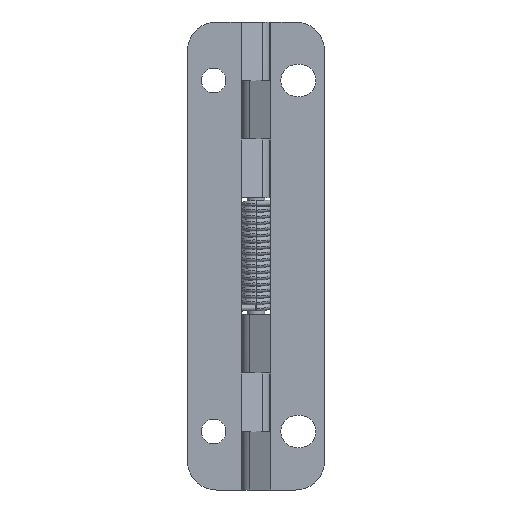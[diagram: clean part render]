
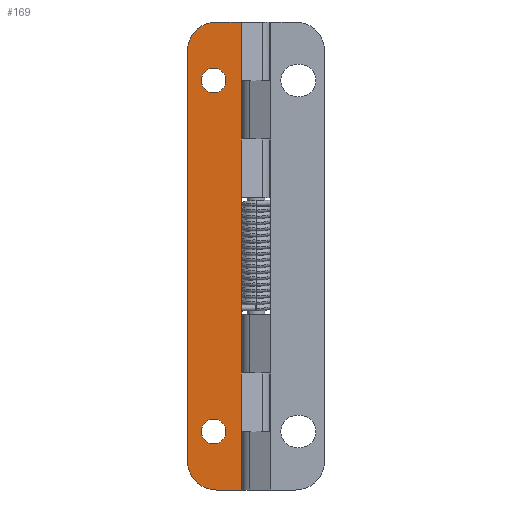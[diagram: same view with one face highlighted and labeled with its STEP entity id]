
A CAD part, front view. The second image highlights one B-rep face of the part: STEP entity #169.
In plain terms, the highlighted planar face has unit normal (0, -1, 0).
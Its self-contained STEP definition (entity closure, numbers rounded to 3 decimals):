
#169=ADVANCED_FACE('',(#393,#394,#395),#396,.F.);
#393=FACE_BOUND('',#751,.T.);
#394=FACE_BOUND('',#752,.T.);
#395=FACE_OUTER_BOUND('',#753,.T.);
#396=PLANE('',#754);
#751=EDGE_LOOP('',(#1415,#1416));
#752=EDGE_LOOP('',(#1417,#1418));
#753=EDGE_LOOP('',(#1419,#1420,#1421,#1422,#1423,#1424,#1425,#1426,#1427,#1428,#1429));
#754=AXIS2_PLACEMENT_3D('',#1430,#1431,#1432);
#1415=ORIENTED_EDGE('',*,*,#2714,.T.);
#1416=ORIENTED_EDGE('',*,*,#2673,.T.);
#1417=ORIENTED_EDGE('',*,*,#2716,.T.);
#1418=ORIENTED_EDGE('',*,*,#2669,.T.);
#1419=ORIENTED_EDGE('',*,*,#2760,.T.);
#1420=ORIENTED_EDGE('',*,*,#2771,.T.);
#1421=ORIENTED_EDGE('',*,*,#2755,.T.);
#1422=ORIENTED_EDGE('',*,*,#2740,.T.);
#1423=ORIENTED_EDGE('',*,*,#2726,.T.);
#1424=ORIENTED_EDGE('',*,*,#2738,.T.);
#1425=ORIENTED_EDGE('',*,*,#2747,.T.);
#1426=ORIENTED_EDGE('',*,*,#2754,.T.);
#1427=ORIENTED_EDGE('',*,*,#2772,.T.);
#1428=ORIENTED_EDGE('',*,*,#2769,.T.);
#1429=ORIENTED_EDGE('',*,*,#2767,.T.);
#1430=CARTESIAN_POINT('',(-7.125,-4.0,-40.0));
#1431=DIRECTION('',(0.0,1.0,0.));
#1432=DIRECTION('',(-1.0,0.,0.));
#2669=EDGE_CURVE('',#3274,#3278,#3280,.T.);
#2673=EDGE_CURVE('',#3282,#3286,#3288,.T.);
#2714=EDGE_CURVE('',#3286,#3282,#3353,.T.);
#2716=EDGE_CURVE('',#3278,#3274,#3355,.T.);
#2726=EDGE_CURVE('',#3320,#3361,#3368,.T.);
#2738=EDGE_CURVE('',#3361,#3298,#3383,.T.);
#2740=EDGE_CURVE('',#3325,#3320,#3385,.T.);
#2747=EDGE_CURVE('',#3298,#3389,#3395,.T.);
#2754=EDGE_CURVE('',#3389,#3402,#3404,.T.);
#2755=EDGE_CURVE('',#3405,#3325,#3406,.T.);
#2760=EDGE_CURVE('',#3415,#3413,#3416,.T.);
#2767=EDGE_CURVE('',#3427,#3415,#3428,.T.);
#2769=EDGE_CURVE('',#3430,#3427,#3431,.T.);
#2771=EDGE_CURVE('',#3413,#3405,#3433,.T.);
#2772=EDGE_CURVE('',#3402,#3430,#3434,.T.);
#3274=VERTEX_POINT('',#4161);
#3278=VERTEX_POINT('',#4166);
#3280=CIRCLE('',#4169,2.1);
#3282=VERTEX_POINT('',#4171);
#3286=VERTEX_POINT('',#4176);
#3288=CIRCLE('',#4179,2.1);
#3298=VERTEX_POINT('',#4194);
#3320=VERTEX_POINT('',#4230);
#3325=VERTEX_POINT('',#4238);
#3353=CIRCLE('',#4284,2.1);
#3355=CIRCLE('',#4286,2.1);
#3361=VERTEX_POINT('',#4294);
#3368=LINE('',#4305,#4306);
#3383=LINE('',#4332,#4333);
#3385=LINE('',#4336,#4337);
#3389=VERTEX_POINT('',#4343);
#3395=LINE('',#4353,#4354);
#3402=VERTEX_POINT('',#4366);
#3404=LINE('',#4369,#4370);
#3405=VERTEX_POINT('',#4371);
#3406=LINE('',#4372,#4373);
#3413=VERTEX_POINT('',#4382);
#3415=VERTEX_POINT('',#4385);
#3416=CIRCLE('',#4386,5.0);
#3427=VERTEX_POINT('',#4402);
#3428=LINE('',#4403,#4404);
#3430=VERTEX_POINT('',#4407);
#3431=CIRCLE('',#4408,5.0);
#3433=LINE('',#4411,#4412);
#3434=LINE('',#4413,#4414);
#4161=CARTESIAN_POINT('',(-5.15,-4.0,-10.0));
#4166=CARTESIAN_POINT('',(-9.35,-4.0,-10.0));
#4169=AXIS2_PLACEMENT_3D('',#5213,#5214,#5215);
#4171=CARTESIAN_POINT('',(-5.15,-4.0,-70.0));
#4176=CARTESIAN_POINT('',(-9.35,-4.0,-70.0));
#4179=AXIS2_PLACEMENT_3D('',#5221,#5222,#5223);
#4194=CARTESIAN_POINT('',(-2.5,-4.0,-20.0));
#4230=CARTESIAN_POINT('',(-2.5,-4.,-60.0));
#4238=CARTESIAN_POINT('',(-2.5,-4.0,-70.0));
#4284=AXIS2_PLACEMENT_3D('',#5264,#5265,#5266);
#4286=AXIS2_PLACEMENT_3D('',#5270,#5271,#5272);
#4294=CARTESIAN_POINT('',(-2.5,-4.,-30.0));
#4305=CARTESIAN_POINT('',(-2.5,-4.0,-80.0));
#4306=VECTOR('',#5288,1.0);
#4332=CARTESIAN_POINT('',(-2.5,-4.0,-80.0));
#4333=VECTOR('',#5300,1.0);
#4336=CARTESIAN_POINT('',(-2.5,-4.0,-80.0));
#4337=VECTOR('',#5302,1.0);
#4343=CARTESIAN_POINT('',(-2.5,-4.0,-10.0));
#4353=CARTESIAN_POINT('',(-2.5,-4.0,-80.0));
#4354=VECTOR('',#5309,1.0);
#4366=CARTESIAN_POINT('',(-2.5,-4.0,0.));
#4369=CARTESIAN_POINT('',(-2.5,-4.0,-80.0));
#4370=VECTOR('',#5316,1.0);
#4371=CARTESIAN_POINT('',(-2.5,-4.0,-80.0));
#4372=CARTESIAN_POINT('',(-2.5,-4.0,-80.0));
#4373=VECTOR('',#5317,1.0);
#4382=CARTESIAN_POINT('',(-6.75,-4.0,-80.0));
#4385=CARTESIAN_POINT('',(-11.75,-4.0,-75.0));
#4386=AXIS2_PLACEMENT_3D('',#5324,#5325,#5326);
#4402=CARTESIAN_POINT('',(-11.75,-4.0,-5.0));
#4403=CARTESIAN_POINT('',(-11.75,-4.0,-40.0));
#4404=VECTOR('',#5335,1.0);
#4407=CARTESIAN_POINT('',(-6.75,-4.0,0.));
#4408=AXIS2_PLACEMENT_3D('',#5337,#5338,#5339);
#4411=CARTESIAN_POINT('',(-7.125,-4.0,-80.0));
#4412=VECTOR('',#5341,1.0);
#4413=CARTESIAN_POINT('',(-7.125,-4.0,0.));
#4414=VECTOR('',#5342,1.0);
#5213=CARTESIAN_POINT('',(-7.25,-4.0,-10.0));
#5214=DIRECTION('',(0.0,1.0,0.));
#5215=DIRECTION('',(1.0,0.0,0.0));
#5221=CARTESIAN_POINT('',(-7.25,-4.0,-70.0));
#5222=DIRECTION('',(0.0,1.0,0.));
#5223=DIRECTION('',(1.0,0.0,0.0));
#5264=CARTESIAN_POINT('',(-7.25,-4.0,-70.0));
#5265=DIRECTION('',(0.0,1.0,0.));
#5266=DIRECTION('',(1.0,0.0,0.0));
#5270=CARTESIAN_POINT('',(-7.25,-4.0,-10.0));
#5271=DIRECTION('',(0.0,1.0,0.));
#5272=DIRECTION('',(1.0,0.0,0.0));
#5288=DIRECTION('',(0.,0.,1.0));
#5300=DIRECTION('',(0.,0.,1.0));
#5302=DIRECTION('',(0.,0.,1.0));
#5309=DIRECTION('',(0.,0.,1.0));
#5316=DIRECTION('',(0.,0.,1.0));
#5317=DIRECTION('',(0.,0.,1.0));
#5324=CARTESIAN_POINT('',(-6.75,-4.,-75.0));
#5325=DIRECTION('',(0.0,-1.0,0.));
#5326=DIRECTION('',(-1.0,0.,0.));
#5335=DIRECTION('',(0.,0.,-1.0));
#5337=CARTESIAN_POINT('',(-6.75,-4.0,-5.0));
#5338=DIRECTION('',(0.0,-1.0,0.));
#5339=DIRECTION('',(-1.0,0.,0.));
#5341=DIRECTION('',(1.0,0.,0.));
#5342=DIRECTION('',(-1.0,0.,0.));
